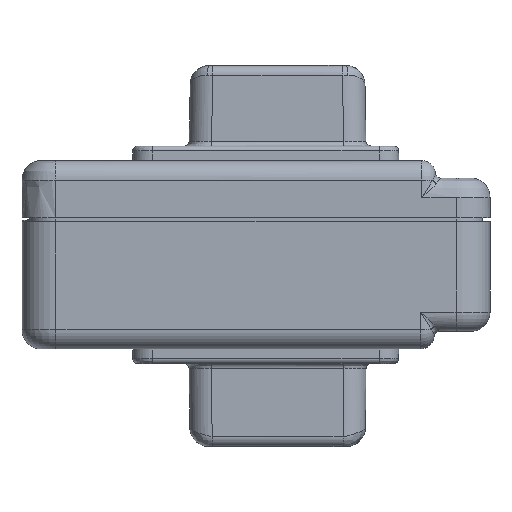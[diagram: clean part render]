
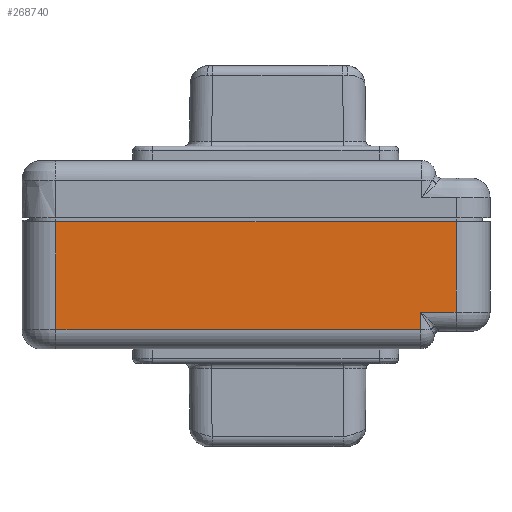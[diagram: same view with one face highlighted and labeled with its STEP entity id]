
A CAD part, front view. The second image highlights one B-rep face of the part: STEP entity #268740.
In plain terms, the highlighted planar face has unit normal (0, -1, 0).
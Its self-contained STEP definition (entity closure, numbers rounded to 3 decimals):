
#140460=CARTESIAN_POINT('',(-13.856,0.047,
6.625));
#140470=VERTEX_POINT('',#140460);
#228320=CARTESIAN_POINT('',(-13.856,0.047,
17.725));
#228330=VERTEX_POINT('',#228320);
#228360=CARTESIAN_POINT('',(-13.856,0.047,28.55))
;
#228370=DIRECTION('',(0.,0.,1.));
#228380=VECTOR('',#228370,1.);
#228390=LINE('',#228360,#228380);
#228400=EDGE_CURVE('',#140470,#228330,#228390,.T.);
#230210=CARTESIAN_POINT('',(27.344,0.047,
17.725));
#230220=VERTEX_POINT('',#230210);
#230250=CARTESIAN_POINT('',(0.,0.047,
17.725));
#230260=DIRECTION('',(1.,0.,0.));
#230270=VECTOR('',#230260,1.);
#230280=LINE('',#230250,#230270);
#230290=EDGE_CURVE('',#228330,#230220,#230280,.T.);
#267660=CARTESIAN_POINT('',(27.344,0.047,
8.425));
#267670=VERTEX_POINT('',#267660);
#268020=CARTESIAN_POINT('',(23.692,0.047,
8.425));
#268030=VERTEX_POINT('',#268020);
#268080=CARTESIAN_POINT('',(0.,0.047,
8.425));
#268090=DIRECTION('',(-1.,0.,0.));
#268100=VECTOR('',#268090,1.);
#268110=LINE('',#268080,#268100);
#268120=EDGE_CURVE('',#267670,#268030,#268110,.T.);
#268390=CARTESIAN_POINT('',(27.344,0.047,28.55));
#268400=DIRECTION('',(0.,0.,-1.));
#268410=VECTOR('',#268400,1.);
#268420=LINE('',#268390,#268410);
#268430=EDGE_CURVE('',#230220,#267670,#268420,.T.);
#268490=CARTESIAN_POINT('',(-8.31,0.047,
17.501));
#268500=DIRECTION('',(0.,1.,0.));
#268510=DIRECTION('',(-1.,0.,0.));
#268520=AXIS2_PLACEMENT_3D('',#268490,#268500,#268510);
#268530=PLANE('',#268520);
#268540=CARTESIAN_POINT('',(23.692,0.047,
6.625));
#268550=DIRECTION('',(0.,0.,-1.));
#268560=VECTOR('',#268550,1.);
#268570=LINE('',#268540,#268560);
#268580=CARTESIAN_POINT('',(23.692,0.047,
6.625));
#268590=VERTEX_POINT('',#268580);
#268600=EDGE_CURVE('',#268030,#268590,#268570,.T.);
#268610=ORIENTED_EDGE('',*,*,#268600,.F.);
#268620=CARTESIAN_POINT('',(0.,0.047,
6.625));
#268630=DIRECTION('',(1.,0.,0.));
#268640=VECTOR('',#268630,1.);
#268650=LINE('',#268620,#268640);
#268660=EDGE_CURVE('',#140470,#268590,#268650,.T.);
#268670=ORIENTED_EDGE('',*,*,#268660,.T.);
#268680=ORIENTED_EDGE('',*,*,#228400,.F.);
#268690=ORIENTED_EDGE('',*,*,#230290,.F.);
#268700=ORIENTED_EDGE('',*,*,#268430,.F.);
#268710=ORIENTED_EDGE('',*,*,#268120,.F.);
#268720=EDGE_LOOP('',(#268710,#268700,#268690,#268680,#268670,#268610));
#268730=FACE_OUTER_BOUND('',#268720,.T.);
#268740=ADVANCED_FACE('',(#268730),#268530,.F.);
